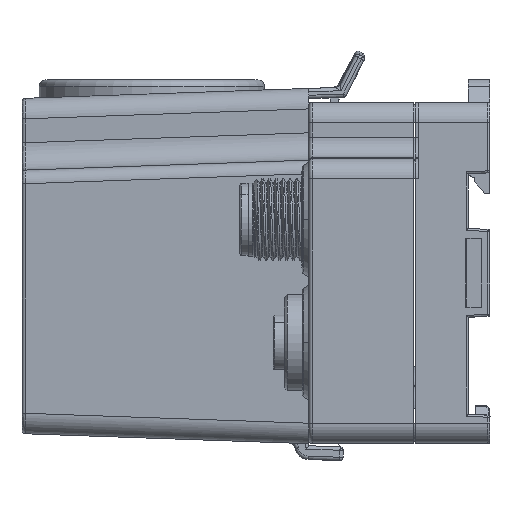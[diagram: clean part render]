
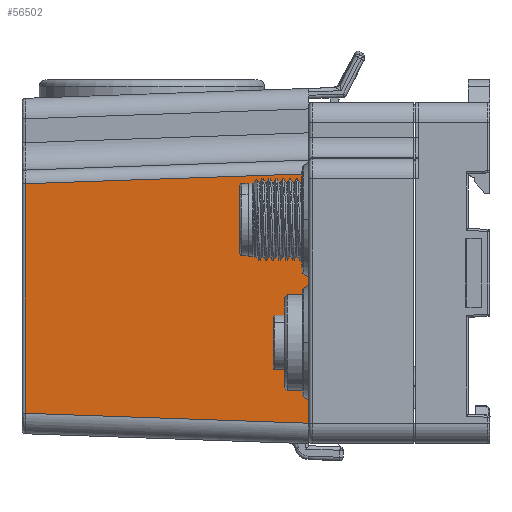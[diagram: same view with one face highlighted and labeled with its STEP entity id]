
A CAD part, left-side view. The second image highlights one B-rep face of the part: STEP entity #56502.
In plain terms, the highlighted planar face has unit normal (-0.999, 0.035, 0).
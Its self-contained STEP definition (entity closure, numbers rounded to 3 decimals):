
#48382=CARTESIAN_POINT('',(-63.5,7.6,-22.002));
#48390=DIRECTION('',(0.,0.,1.));
#48391=VECTOR('',#48390,36.503);
#48392=CARTESIAN_POINT('',(-63.5,7.6,-22.002));
#48393=LINE('',#48392,#48391);
#48400=CARTESIAN_POINT('',(-63.5,7.6,14.501));
#50989=DIRECTION('',(0.,0.,1.));
#50990=VECTOR('',#50989,33.603);
#50991=CARTESIAN_POINT('',(-62.05,49.117,
-20.552));
#50992=LINE('',#50991,#50990);
#50993=DIRECTION('',(0.035,0.999,-0.035));
#50994=VECTOR('',#50993,41.568);
#50995=CARTESIAN_POINT('',(-63.5,7.6,14.501));
#50996=LINE('',#50995,#50994);
#50997=DIRECTION('',(-0.035,-0.999,-0.035));
#50998=VECTOR('',#50997,41.568);
#50999=CARTESIAN_POINT('',(-62.05,49.117,
-20.552));
#51000=LINE('',#50999,#50998);
#51011=CARTESIAN_POINT('',(-62.05,49.117,
-20.552));
#52003=VERTEX_POINT('',#48382);
#52270=VERTEX_POINT('',#48400);
#52301=VERTEX_POINT('',#51011);
#52304=CARTESIAN_POINT('',(-62.05,49.117,
13.051));
#52305=VERTEX_POINT('',#52304);
#56490=CARTESIAN_POINT('',(-63.5,7.6,-27.2));
#56491=DIRECTION('',(-0.999,0.035,0.));
#56492=DIRECTION('',(0.,0.,-1.));
#56493=AXIS2_PLACEMENT_3D('',#56490,#56491,#56492);
#56494=PLANE('',#56493);
#56495=ORIENTED_EDGE('',*,*,#52923,.T.);
#56496=ORIENTED_EDGE('',*,*,#56485,.F.);
#56497=ORIENTED_EDGE('',*,*,#52646,.F.);
#56499=ORIENTED_EDGE('',*,*,#56498,.F.);
#56500=EDGE_LOOP('',(#56495,#56496,#56497,#56499));
#56501=FACE_OUTER_BOUND('',#56500,.F.);
#52646=EDGE_CURVE('',#52003,#52270,#48393,.T.);
#52923=EDGE_CURVE('',#52301,#52305,#50992,.T.);
#56485=EDGE_CURVE('',#52270,#52305,#50996,.T.);
#56498=EDGE_CURVE('',#52301,#52003,#51000,.T.);
#56502=ADVANCED_FACE('',(#56501),#56494,.T.);
